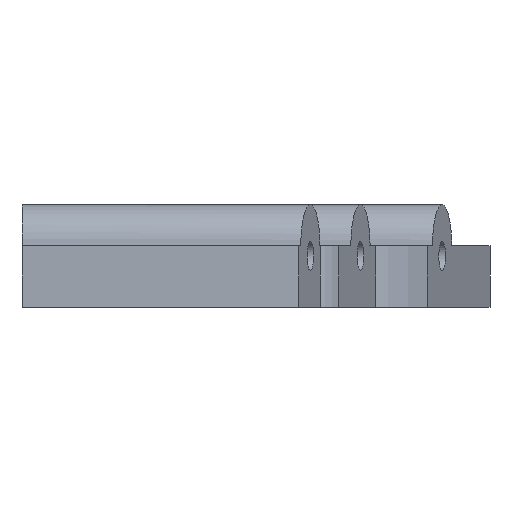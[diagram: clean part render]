
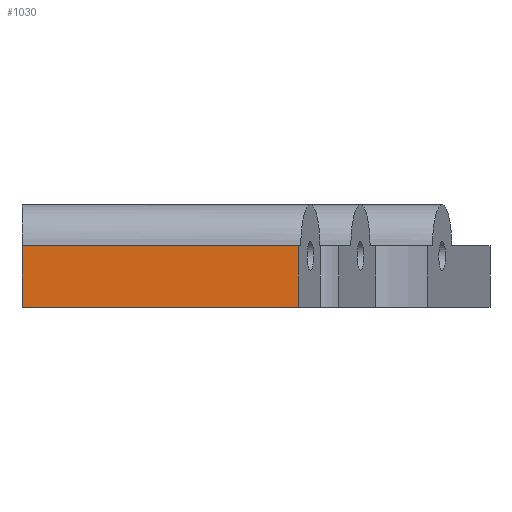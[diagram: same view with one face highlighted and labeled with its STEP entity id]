
A CAD part, front view. The second image highlights one B-rep face of the part: STEP entity #1030.
In plain terms, the highlighted planar face has unit normal (0, -1, 0) as drawn and (0, 0, -1) by its records, which use the part's own axes.
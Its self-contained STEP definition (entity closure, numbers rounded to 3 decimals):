
#117=FACE_OUTER_BOUND('',#182,.T.);
#182=EDGE_LOOP('',(#933,#934,#935,#936));
#278=LINE('',#1625,#396);
#283=LINE('',#1636,#401);
#298=LINE('',#1679,#416);
#301=LINE('',#1683,#419);
#396=VECTOR('',#1325,10.);
#401=VECTOR('',#1336,10.);
#416=VECTOR('',#1383,10.);
#419=VECTOR('',#1388,10.);
#498=VERTEX_POINT('',#1622);
#499=VERTEX_POINT('',#1624);
#502=VERTEX_POINT('',#1635);
#514=VERTEX_POINT('',#1677);
#625=EDGE_CURVE('',#498,#499,#278,.T.);
#631=EDGE_CURVE('',#499,#502,#283,.T.);
#653=EDGE_CURVE('',#502,#514,#298,.T.);
#656=EDGE_CURVE('',#498,#514,#301,.T.);
#933=ORIENTED_EDGE('',*,*,#656,.T.);
#934=ORIENTED_EDGE('',*,*,#653,.F.);
#935=ORIENTED_EDGE('',*,*,#631,.F.);
#936=ORIENTED_EDGE('',*,*,#625,.F.);
#979=PLANE('',#1120);
#1030=ADVANCED_FACE('',(#117),#979,.T.);
#1120=AXIS2_PLACEMENT_3D('',#1685,#1391,#1392);
#1325=DIRECTION('',(0.,-1.,0.));
#1336=DIRECTION('',(1.,0.,0.));
#1383=DIRECTION('',(0.,1.,0.));
#1388=DIRECTION('',(1.,0.,0.));
#1391=DIRECTION('center_axis',(0.,0.,
-1.));
#1392=DIRECTION('ref_axis',(1.,0.,0.));
#1622=CARTESIAN_POINT('',(-330.,279.982,-70.));
#1624=CARTESIAN_POINT('',(-330.,273.982,-70.));
#1625=CARTESIAN_POINT('',(-330.,289.982,-70.));
#1635=CARTESIAN_POINT('',(-303.033,273.982,-70.));
#1636=CARTESIAN_POINT('',(-330.,273.982,-70.));
#1677=CARTESIAN_POINT('',(-303.033,279.982,-70.));
#1679=CARTESIAN_POINT('',(-303.033,289.982,-70.));
#1683=CARTESIAN_POINT('',(-320.,279.982,-70.));
#1685=CARTESIAN_POINT('Origin',(-330.,289.982,-70.));
